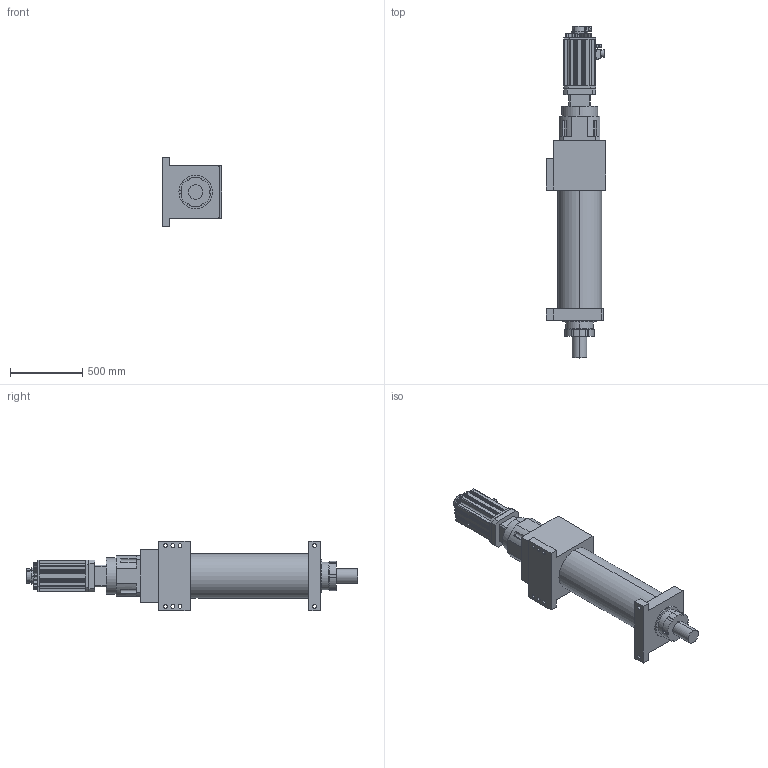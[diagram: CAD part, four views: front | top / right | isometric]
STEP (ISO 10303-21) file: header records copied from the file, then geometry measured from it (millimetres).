
FILE_DESCRIPTION (( 'STEP AP203' ), '1' );
FILE_NAME ('S12眻盄耜醱假蚾.STEP', '2024-08-16T07:07:55', ( '' ), ( '' ), 'SwSTEP 2.0', 'SolidWorks 2018', '' );
FILE_SCHEMA (( 'CONFIG_CONTROL_DESIGN' ));
Length unit declared in the file: millimetre
Products named in the file (4): S12眻盄耜醱假蚾; S12眻盄耜醱; ECMA-F1221BS3-220框號系列機種-11KW高慣量系列; 000
Assembly tree (3 placements, depth 2):
  S12眻盄耜醱假蚾
    000
    ECMA-F1221BS3-220框號系列機種-11KW高慣量系列
    S12眻盄耜醱
Bounding box: 410 x 2294.5 x 480 mm (x, y, z)
Volume: 145770575.1 mm3; surface area: 3305861.6 mm2
Topology: 2 solids, 9 shells, 871 faces, 2299 edges, 1485 vertices
Faces by surface type: plane 440, cylinder 285, cone 107, bspline 18, torus 13, sphere 8
Entity records: 29419 total; most frequent: CARTESIAN_POINT 7635, DIRECTION 4421, ORIENTED_EDGE 4310, EDGE_CURVE 2297, AXIS2_PLACEMENT_3D 1583, VERTEX_POINT 1485, LINE 1255, VECTOR 1255
